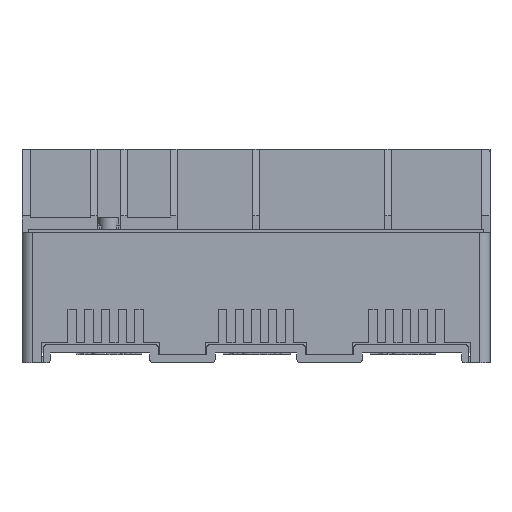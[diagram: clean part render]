
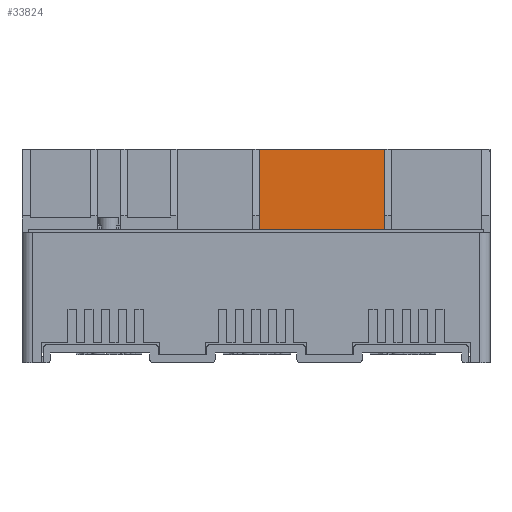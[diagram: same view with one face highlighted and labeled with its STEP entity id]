
A CAD part, front view. The second image highlights one B-rep face of the part: STEP entity #33824.
In plain terms, the highlighted planar face has unit normal (0, -1, 0).
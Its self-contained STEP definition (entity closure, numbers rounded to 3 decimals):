
#3053 = ORIENTED_EDGE ( 'NONE', *, *, #35662, .F. ) ;
#5023 = DIRECTION ( 'NONE',  ( 0., 0., 1. ) ) ;
#17727 = DIRECTION ( 'NONE',  ( -1., 0., 0. ) ) ;
#18076 = CARTESIAN_POINT ( 'NONE',  ( 39.303, -92.28, 222.452 ) ) ;
#20377 = CARTESIAN_POINT ( 'NONE',  ( 76.803, -92.28, 289. ) ) ;
#20513 = LINE ( 'NONE', #57683, #58932 ) ;
#21078 = FACE_OUTER_BOUND ( 'NONE', #32975, .T. ) ;
#24458 = ORIENTED_EDGE ( 'NONE', *, *, #52850, .F. ) ;
#30893 = ORIENTED_EDGE ( 'NONE', *, *, #62166, .T. ) ;
#31987 = VERTEX_POINT ( 'NONE', #20377 ) ;
#32975 = EDGE_LOOP ( 'NONE', ( #3053, #68489, #30893, #24458 ) ) ;
#33824 = ADVANCED_FACE ( 'NONE', ( #21078 ), #39757, .F. ) ;
#35662 = EDGE_CURVE ( 'NONE', #55136, #64939, #20513, .T. ) ;
#36363 = CARTESIAN_POINT ( 'NONE',  ( 105.803, -92.28, 289. ) ) ;
#36624 = VECTOR ( 'NONE', #69717, 1000. ) ;
#39524 = DIRECTION ( 'NONE',  ( -1., 0., 0. ) ) ;
#39757 = PLANE ( 'NONE',  #63298 ) ;
#44076 = VERTEX_POINT ( 'NONE', #48287 ) ;
#44432 = CARTESIAN_POINT ( 'NONE',  ( 76.803, -92.28, 222.452 ) ) ;
#48287 = CARTESIAN_POINT ( 'NONE',  ( 39.303, -92.28, 289. ) ) ;
#52850 = EDGE_CURVE ( 'NONE', #64939, #44076, #54496, .T. ) ;
#53533 = EDGE_CURVE ( 'NONE', #55136, #31987, #71383, .T. ) ;
#53644 = DIRECTION ( 'NONE',  ( -1., 0., 0. ) ) ;
#54496 = LINE ( 'NONE', #18076, #36624 ) ;
#55136 = VERTEX_POINT ( 'NONE', #55198 ) ;
#55198 = CARTESIAN_POINT ( 'NONE',  ( 76.803, -92.28, 265. ) ) ;
#56774 = CARTESIAN_POINT ( 'NONE',  ( 39.303, -92.28, 265. ) ) ;
#57683 = CARTESIAN_POINT ( 'NONE',  ( 105.803, -92.28, 265. ) ) ;
#58932 = VECTOR ( 'NONE', #17727, 1000. ) ;
#59279 = LINE ( 'NONE', #36363, #60147 ) ;
#60147 = VECTOR ( 'NONE', #53644, 1000. ) ;
#61700 = VECTOR ( 'NONE', #5023, 1000. ) ;
#62166 = EDGE_CURVE ( 'NONE', #31987, #44076, #59279, .T. ) ;
#63298 = AXIS2_PLACEMENT_3D ( 'NONE', #73734, #67972, #39524 ) ;
#64939 = VERTEX_POINT ( 'NONE', #56774 ) ;
#67972 = DIRECTION ( 'NONE',  ( 0., 1., 0. ) ) ;
#68489 = ORIENTED_EDGE ( 'NONE', *, *, #53533, .T. ) ;
#69717 = DIRECTION ( 'NONE',  ( 0., 0., 1. ) ) ;
#71383 = LINE ( 'NONE', #44432, #61700 ) ;
#73734 = CARTESIAN_POINT ( 'NONE',  ( 105.803, -92.28, 127.265 ) ) ;
